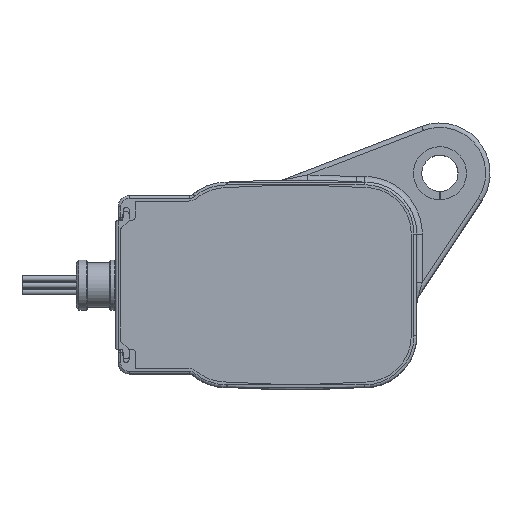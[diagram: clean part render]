
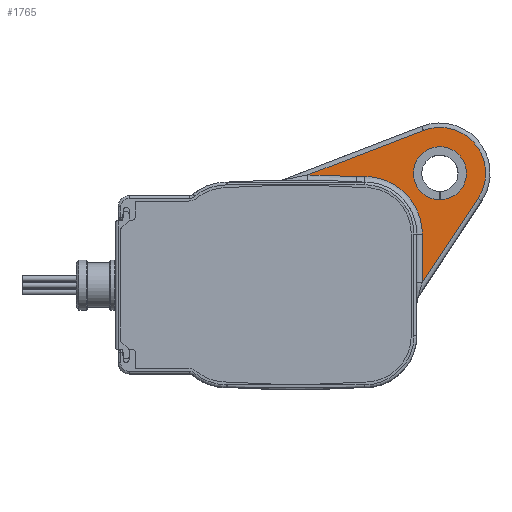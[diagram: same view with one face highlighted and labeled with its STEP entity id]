
A CAD part, top view. The second image highlights one B-rep face of the part: STEP entity #1765.
In plain terms, the highlighted planar face has unit normal (0, 0, 1).
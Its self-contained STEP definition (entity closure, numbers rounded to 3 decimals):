
#781=PLANE('',#10409);
#946=LINE('',#35078,#1219);
#947=LINE('',#35086,#1220);
#948=LINE('',#35115,#1221);
#949=LINE('',#35117,#1222);
#950=LINE('',#35123,#1223);
#951=LINE('',#35127,#1224);
#1219=VECTOR('',#11925,1.);
#1220=VECTOR('',#11926,1.);
#1221=VECTOR('',#11927,1.);
#1222=VECTOR('',#11928,1.);
#1223=VECTOR('',#11933,1.);
#1224=VECTOR('',#11936,1.);
#1765=ADVANCED_FACE('',(#2378,#3492),#781,.T.);
#2378=FACE_OUTER_BOUND('',#4066,.T.);
#3037=B_SPLINE_CURVE_WITH_KNOTS('',3,(#35081,#35082,#35083,#35084),.UNSPECIFIED.,
.F.,.F.,(4,4),(0.,1.),.UNSPECIFIED.);
#3038=B_SPLINE_CURVE_WITH_KNOTS('',3,(#35088,#35089,#35090,#35091,#35092,
#35093,#35094,#35095,#35096,#35097,#35098,#35099,#35100,#35101,#35102,#35103,
#35104,#35105,#35106,#35107,#35108,#35109,#35110,#35111,#35112,#35113),.UNSPECIFIED.,
.F.,.F.,(4,2,2,2,2,2,2,2,2,2,2,2,4),(0.,0.125,0.188,0.25,
0.313,0.375,0.5,0.563,
0.625,0.75,0.812,0.875,
1.),.UNSPECIFIED.);
#3492=FACE_BOUND('',#4067,.T.);
#4066=EDGE_LOOP('',(#5860,#5861,#5862,#5863,#5864,#5865,#5866));
#4067=EDGE_LOOP('',(#5867,#5868,#5869,#5870));
#5860=ORIENTED_EDGE('',*,*,#8825,.T.);
#5861=ORIENTED_EDGE('',*,*,#8826,.T.);
#5862=ORIENTED_EDGE('',*,*,#8827,.T.);
#5863=ORIENTED_EDGE('',*,*,#8828,.T.);
#5864=ORIENTED_EDGE('',*,*,#8829,.T.);
#5865=ORIENTED_EDGE('',*,*,#8830,.T.);
#5866=ORIENTED_EDGE('',*,*,#8831,.T.);
#5867=ORIENTED_EDGE('',*,*,#8832,.F.);
#5868=ORIENTED_EDGE('',*,*,#8833,.T.);
#5869=ORIENTED_EDGE('',*,*,#8834,.T.);
#5870=ORIENTED_EDGE('',*,*,#8835,.F.);
#7698=VERTEX_POINT('',#35079);
#7699=VERTEX_POINT('',#35080);
#7700=VERTEX_POINT('',#35085);
#7701=VERTEX_POINT('',#35087);
#7702=VERTEX_POINT('',#35114);
#7703=VERTEX_POINT('',#35116);
#7704=VERTEX_POINT('',#35118);
#7705=VERTEX_POINT('',#35121);
#7706=VERTEX_POINT('',#35122);
#7707=VERTEX_POINT('',#35124);
#7708=VERTEX_POINT('',#35126);
#8825=EDGE_CURVE('',#7698,#7699,#946,.T.);
#8826=EDGE_CURVE('',#7699,#7700,#3037,.T.);
#8827=EDGE_CURVE('',#7700,#7701,#947,.T.);
#8828=EDGE_CURVE('',#7701,#7702,#3038,.T.);
#8829=EDGE_CURVE('',#7702,#7703,#948,.T.);
#8830=EDGE_CURVE('',#7703,#7704,#949,.T.);
#8831=EDGE_CURVE('',#7704,#7698,#9693,.T.);
#8832=EDGE_CURVE('',#7705,#7706,#9694,.T.);
#8833=EDGE_CURVE('',#7705,#7707,#950,.T.);
#8834=EDGE_CURVE('',#7707,#7708,#9695,.T.);
#8835=EDGE_CURVE('',#7706,#7708,#951,.T.);
#9693=CIRCLE('',#10406,8.2);
#9694=CIRCLE('',#10407,4.75);
#9695=CIRCLE('',#10408,3.25);
#10406=AXIS2_PLACEMENT_3D('',#35119,#11929,#11930);
#10407=AXIS2_PLACEMENT_3D('',#35120,#11931,#11932);
#10408=AXIS2_PLACEMENT_3D('',#35125,#11934,#11935);
#10409=AXIS2_PLACEMENT_3D('',#35128,#11937,#11938);
#11925=DIRECTION('',(-0.933,-0.359,0.));
#11926=DIRECTION('',(1.,0.,0.));
#11927=DIRECTION('',(0.,-1.,0.));
#11928=DIRECTION('',(0.551,0.834,0.));
#11929=DIRECTION('',(0.,0.,1.));
#11930=DIRECTION('',(1.,0.,0.));
#11931=DIRECTION('',(0.,0.,1.));
#11932=DIRECTION('',(1.,0.,0.));
#11933=DIRECTION('',(-0.017,1.,0.));
#11934=DIRECTION('',(0.,0.,-1.));
#11935=DIRECTION('',(0.,-1.,0.));
#11936=DIRECTION('',(0.,1.,0.));
#11937=DIRECTION('',(0.,0.,1.));
#11938=DIRECTION('',(1.,0.,0.));
#35078=CARTESIAN_POINT('',(-54.12,-135.131,-120.187));
#35079=CARTESIAN_POINT('',(-38.212,-129.013,-120.187));
#35080=CARTESIAN_POINT('',(-58.911,-136.974,-120.187));
#35081=CARTESIAN_POINT('',(-58.911,-136.974,-120.187));
#35082=CARTESIAN_POINT('',(-56.021,-137.007,-120.187));
#35083=CARTESIAN_POINT('',(-53.132,-137.104,-120.187));
#35084=CARTESIAN_POINT('',(-50.247,-137.267,-120.187));
#35085=CARTESIAN_POINT('',(-50.247,-137.267,-120.187));
#35086=CARTESIAN_POINT('',(-48.719,-137.267,-120.187));
#35087=CARTESIAN_POINT('',(-48.719,-137.267,-120.187));
#35088=CARTESIAN_POINT('',(-48.719,-137.267,-120.187));
#35089=CARTESIAN_POINT('',(-48.038,-137.267,-120.187));
#35090=CARTESIAN_POINT('',(-47.366,-137.333,-120.187));
#35091=CARTESIAN_POINT('',(-46.368,-137.533,-120.187));
#35092=CARTESIAN_POINT('',(-46.038,-137.616,-120.187));
#35093=CARTESIAN_POINT('',(-45.394,-137.812,-120.187));
#35094=CARTESIAN_POINT('',(-45.078,-137.926,-120.187));
#35095=CARTESIAN_POINT('',(-44.459,-138.183,-120.187));
#35096=CARTESIAN_POINT('',(-44.155,-138.327,-120.187));
#35097=CARTESIAN_POINT('',(-43.561,-138.645,-120.187));
#35098=CARTESIAN_POINT('',(-43.269,-138.82,-120.187));
#35099=CARTESIAN_POINT('',(-42.425,-139.385,-120.187));
#35100=CARTESIAN_POINT('',(-41.907,-139.811,-120.187));
#35101=CARTESIAN_POINT('',(-41.195,-140.524,-120.187));
#35102=CARTESIAN_POINT('',(-40.969,-140.773,-120.187));
#35103=CARTESIAN_POINT('',(-40.539,-141.298,-120.187));
#35104=CARTESIAN_POINT('',(-40.337,-141.571,-120.187));
#35105=CARTESIAN_POINT('',(-39.777,-142.41,-120.187));
#35106=CARTESIAN_POINT('',(-39.461,-143.002,-120.187));
#35107=CARTESIAN_POINT('',(-39.073,-143.937,-120.187));
#35108=CARTESIAN_POINT('',(-38.959,-144.258,-120.187));
#35109=CARTESIAN_POINT('',(-38.763,-144.905,-120.187));
#35110=CARTESIAN_POINT('',(-38.681,-145.231,-120.187));
#35111=CARTESIAN_POINT('',(-38.485,-146.218,-120.187));
#35112=CARTESIAN_POINT('',(-38.419,-146.887,-120.187));
#35113=CARTESIAN_POINT('',(-38.419,-147.567,-120.187));
#35114=CARTESIAN_POINT('',(-38.419,-147.567,-120.187));
#35115=CARTESIAN_POINT('',(-38.419,-157.816,-120.187));
#35116=CARTESIAN_POINT('',(-38.419,-156.303,-120.187));
#35117=CARTESIAN_POINT('',(-37.873,-155.478,-120.187));
#35118=CARTESIAN_POINT('',(-28.428,-141.188,-120.187));
#35119=CARTESIAN_POINT('',(-35.269,-136.667,-120.187));
#35120=CARTESIAN_POINT('',(-35.269,-136.667,-120.187));
#35121=CARTESIAN_POINT('',(-35.186,-141.416,-120.187));
#35122=CARTESIAN_POINT('',(-35.269,-141.417,-120.187));
#35123=CARTESIAN_POINT('',(-35.075,-147.768,-120.187));
#35124=CARTESIAN_POINT('',(-35.212,-139.916,-120.187));
#35125=CARTESIAN_POINT('',(-35.269,-136.667,-120.187));
#35126=CARTESIAN_POINT('',(-35.269,-139.917,-120.187));
#35127=CARTESIAN_POINT('',(-35.269,-148.014,-120.187));
#35128=CARTESIAN_POINT('',(-49.166,-148.014,-120.187));
